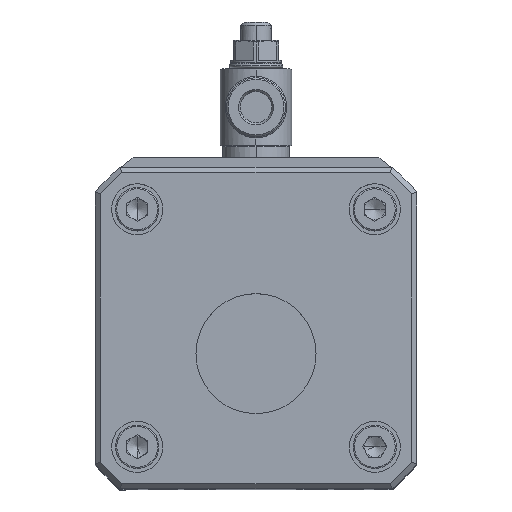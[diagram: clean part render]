
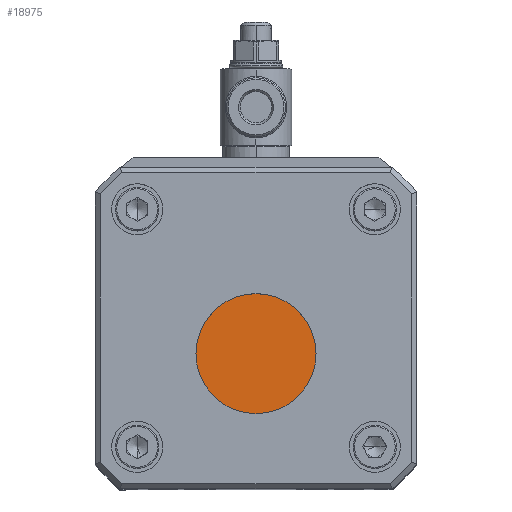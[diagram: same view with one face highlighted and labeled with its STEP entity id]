
A CAD part, top view. The second image highlights one B-rep face of the part: STEP entity #18975.
In plain terms, the highlighted planar face has unit normal (0, 0, 1).
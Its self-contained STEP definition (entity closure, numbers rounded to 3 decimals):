
#227 = CIRCLE ( 'NONE', #8547, 11.75 ) ;
#255 = PLANE ( 'NONE',  #12574 ) ;
#1307 = CARTESIAN_POINT ( 'NONE',  ( -11.75, -231., 40. ) ) ;
#1373 = VERTEX_POINT ( 'NONE', #1307 ) ;
#1747 = CARTESIAN_POINT ( 'NONE',  ( -30.4, -212.2, 40. ) ) ;
#3929 = EDGE_LOOP ( 'NONE', ( #10419, #5457 ) ) ;
#4795 = EDGE_CURVE ( 'NONE', #1373, #11313, #15898, .T. ) ;
#5457 = ORIENTED_EDGE ( 'NONE', *, *, #4795, .T. ) ;
#5884 = FACE_OUTER_BOUND ( 'NONE', #3929, .T. ) ;
#6876 = EDGE_CURVE ( 'NONE', #11313, #1373, #227, .T. ) ;
#8547 = AXIS2_PLACEMENT_3D ( 'NONE', #11071, #15338, #9396 ) ;
#9396 = DIRECTION ( 'NONE',  ( 1., 0., 0. ) ) ;
#9467 = AXIS2_PLACEMENT_3D ( 'NONE', #11081, #15423, #17068 ) ;
#10419 = ORIENTED_EDGE ( 'NONE', *, *, #6876, .T. ) ;
#11071 = CARTESIAN_POINT ( 'NONE',  ( 0., -231., 40. ) ) ;
#11081 = CARTESIAN_POINT ( 'NONE',  ( 0., -231., 40. ) ) ;
#11313 = VERTEX_POINT ( 'NONE', #15987 ) ;
#12184 = DIRECTION ( 'NONE',  ( 1., 0., 0. ) ) ;
#12574 = AXIS2_PLACEMENT_3D ( 'NONE', #1747, #15135, #12184 ) ;
#15135 = DIRECTION ( 'NONE',  ( 0., 0., 1. ) ) ;
#15338 = DIRECTION ( 'NONE',  ( 0., 0., 1. ) ) ;
#15423 = DIRECTION ( 'NONE',  ( 0., 0., 1. ) ) ;
#15898 = CIRCLE ( 'NONE', #9467, 11.75 ) ;
#15987 = CARTESIAN_POINT ( 'NONE',  ( 11.75, -231., 40. ) ) ;
#17068 = DIRECTION ( 'NONE',  ( 1., 0., 0. ) ) ;
#18975 = ADVANCED_FACE ( 'NONE', ( #5884 ), #255, .T. ) ;
